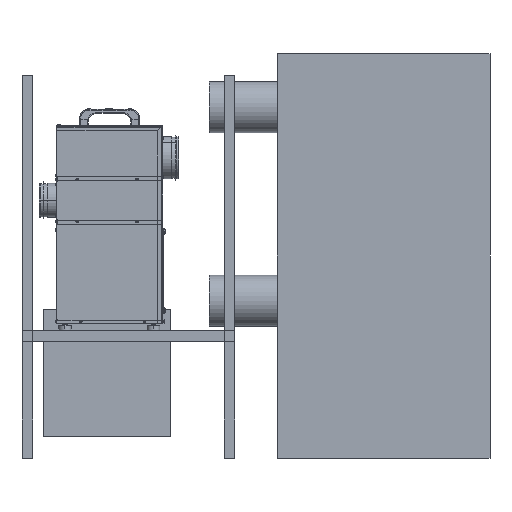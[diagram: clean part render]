
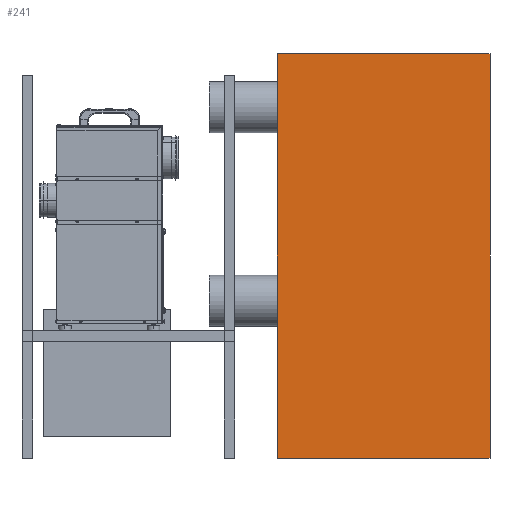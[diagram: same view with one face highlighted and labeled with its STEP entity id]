
A CAD part, front view. The second image highlights one B-rep face of the part: STEP entity #241.
In plain terms, the highlighted planar face has unit normal (0, -1, 0).
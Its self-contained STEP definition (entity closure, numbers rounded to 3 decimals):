
#125 = EDGE_CURVE('',#126,#128,#130,.T.);
#126 = VERTEX_POINT('',#127);
#127 = CARTESIAN_POINT('',(0.,0.,0.));
#128 = VERTEX_POINT('',#129);
#129 = CARTESIAN_POINT('',(0.,0.,950.));
#130 = SURFACE_CURVE('',#131,(#135,#147),.PCURVE_S1.);
#131 = LINE('',#132,#133);
#132 = CARTESIAN_POINT('',(0.,0.,0.));
#133 = VECTOR('',#134,1.);
#134 = DIRECTION('',(0.,0.,1.));
#135 = PCURVE('',#136,#141);
#136 = PLANE('',#137);
#137 = AXIS2_PLACEMENT_3D('',#138,#139,#140);
#138 = CARTESIAN_POINT('',(0.,0.,0.));
#139 = DIRECTION('',(1.,0.,0.));
#140 = DIRECTION('',(0.,0.,1.));
#141 = DEFINITIONAL_REPRESENTATION('',(#142),#146);
#142 = LINE('',#143,#144);
#143 = CARTESIAN_POINT('',(0.,0.));
#144 = VECTOR('',#145,1.);
#145 = DIRECTION('',(1.,0.));
#146 = ( GEOMETRIC_REPRESENTATION_CONTEXT(2) 
PARAMETRIC_REPRESENTATION_CONTEXT() REPRESENTATION_CONTEXT('2D SPACE',''
  ) );
#147 = PCURVE('',#148,#153);
#148 = PLANE('',#149);
#149 = AXIS2_PLACEMENT_3D('',#150,#151,#152);
#150 = CARTESIAN_POINT('',(0.,0.,0.));
#151 = DIRECTION('',(0.,1.,0.));
#152 = DIRECTION('',(0.,0.,1.));
#153 = DEFINITIONAL_REPRESENTATION('',(#154),#158);
#154 = LINE('',#155,#156);
#155 = CARTESIAN_POINT('',(0.,0.));
#156 = VECTOR('',#157,1.);
#157 = DIRECTION('',(1.,0.));
#158 = ( GEOMETRIC_REPRESENTATION_CONTEXT(2) 
PARAMETRIC_REPRESENTATION_CONTEXT() REPRESENTATION_CONTEXT('2D SPACE',''
  ) );
#176 = PLANE('',#177);
#177 = AXIS2_PLACEMENT_3D('',#178,#179,#180);
#178 = CARTESIAN_POINT('',(0.,0.,0.));
#179 = DIRECTION('',(0.,0.,1.));
#180 = DIRECTION('',(1.,0.,0.));
#230 = PLANE('',#231);
#231 = AXIS2_PLACEMENT_3D('',#232,#233,#234);
#232 = CARTESIAN_POINT('',(0.,0.,950.));
#233 = DIRECTION('',(0.,0.,1.));
#234 = DIRECTION('',(1.,0.,0.));
#241 = ADVANCED_FACE('',(#242),#148,.F.);
#242 = FACE_BOUND('',#243,.F.);
#243 = EDGE_LOOP('',(#244,#267,#268,#291));
#244 = ORIENTED_EDGE('',*,*,#245,.F.);
#245 = EDGE_CURVE('',#126,#246,#248,.T.);
#246 = VERTEX_POINT('',#247);
#247 = CARTESIAN_POINT('',(500.,0.,0.));
#248 = SURFACE_CURVE('',#249,(#253,#260),.PCURVE_S1.);
#249 = LINE('',#250,#251);
#250 = CARTESIAN_POINT('',(0.,0.,0.));
#251 = VECTOR('',#252,1.);
#252 = DIRECTION('',(1.,0.,0.));
#253 = PCURVE('',#148,#254);
#254 = DEFINITIONAL_REPRESENTATION('',(#255),#259);
#255 = LINE('',#256,#257);
#256 = CARTESIAN_POINT('',(0.,0.));
#257 = VECTOR('',#258,1.);
#258 = DIRECTION('',(0.,1.));
#259 = ( GEOMETRIC_REPRESENTATION_CONTEXT(2) 
PARAMETRIC_REPRESENTATION_CONTEXT() REPRESENTATION_CONTEXT('2D SPACE',''
  ) );
#260 = PCURVE('',#176,#261);
#261 = DEFINITIONAL_REPRESENTATION('',(#262),#266);
#262 = LINE('',#263,#264);
#263 = CARTESIAN_POINT('',(0.,0.));
#264 = VECTOR('',#265,1.);
#265 = DIRECTION('',(1.,0.));
#266 = ( GEOMETRIC_REPRESENTATION_CONTEXT(2) 
PARAMETRIC_REPRESENTATION_CONTEXT() REPRESENTATION_CONTEXT('2D SPACE',''
  ) );
#267 = ORIENTED_EDGE('',*,*,#125,.T.);
#268 = ORIENTED_EDGE('',*,*,#269,.T.);
#269 = EDGE_CURVE('',#128,#270,#272,.T.);
#270 = VERTEX_POINT('',#271);
#271 = CARTESIAN_POINT('',(500.,0.,950.));
#272 = SURFACE_CURVE('',#273,(#277,#284),.PCURVE_S1.);
#273 = LINE('',#274,#275);
#274 = CARTESIAN_POINT('',(0.,0.,950.));
#275 = VECTOR('',#276,1.);
#276 = DIRECTION('',(1.,0.,0.));
#277 = PCURVE('',#148,#278);
#278 = DEFINITIONAL_REPRESENTATION('',(#279),#283);
#279 = LINE('',#280,#281);
#280 = CARTESIAN_POINT('',(950.,0.));
#281 = VECTOR('',#282,1.);
#282 = DIRECTION('',(0.,1.));
#283 = ( GEOMETRIC_REPRESENTATION_CONTEXT(2) 
PARAMETRIC_REPRESENTATION_CONTEXT() REPRESENTATION_CONTEXT('2D SPACE',''
  ) );
#284 = PCURVE('',#230,#285);
#285 = DEFINITIONAL_REPRESENTATION('',(#286),#290);
#286 = LINE('',#287,#288);
#287 = CARTESIAN_POINT('',(0.,0.));
#288 = VECTOR('',#289,1.);
#289 = DIRECTION('',(1.,0.));
#290 = ( GEOMETRIC_REPRESENTATION_CONTEXT(2) 
PARAMETRIC_REPRESENTATION_CONTEXT() REPRESENTATION_CONTEXT('2D SPACE',''
  ) );
#291 = ORIENTED_EDGE('',*,*,#292,.F.);
#292 = EDGE_CURVE('',#246,#270,#293,.T.);
#293 = SURFACE_CURVE('',#294,(#298,#305),.PCURVE_S1.);
#294 = LINE('',#295,#296);
#295 = CARTESIAN_POINT('',(500.,0.,0.));
#296 = VECTOR('',#297,1.);
#297 = DIRECTION('',(0.,0.,1.));
#298 = PCURVE('',#148,#299);
#299 = DEFINITIONAL_REPRESENTATION('',(#300),#304);
#300 = LINE('',#301,#302);
#301 = CARTESIAN_POINT('',(0.,500.));
#302 = VECTOR('',#303,1.);
#303 = DIRECTION('',(1.,0.));
#304 = ( GEOMETRIC_REPRESENTATION_CONTEXT(2) 
PARAMETRIC_REPRESENTATION_CONTEXT() REPRESENTATION_CONTEXT('2D SPACE',''
  ) );
#305 = PCURVE('',#306,#311);
#306 = PLANE('',#307);
#307 = AXIS2_PLACEMENT_3D('',#308,#309,#310);
#308 = CARTESIAN_POINT('',(500.,0.,0.));
#309 = DIRECTION('',(1.,0.,0.));
#310 = DIRECTION('',(0.,0.,1.));
#311 = DEFINITIONAL_REPRESENTATION('',(#312),#316);
#312 = LINE('',#313,#314);
#313 = CARTESIAN_POINT('',(0.,0.));
#314 = VECTOR('',#315,1.);
#315 = DIRECTION('',(1.,0.));
#316 = ( GEOMETRIC_REPRESENTATION_CONTEXT(2) 
PARAMETRIC_REPRESENTATION_CONTEXT() REPRESENTATION_CONTEXT('2D SPACE',''
  ) );
